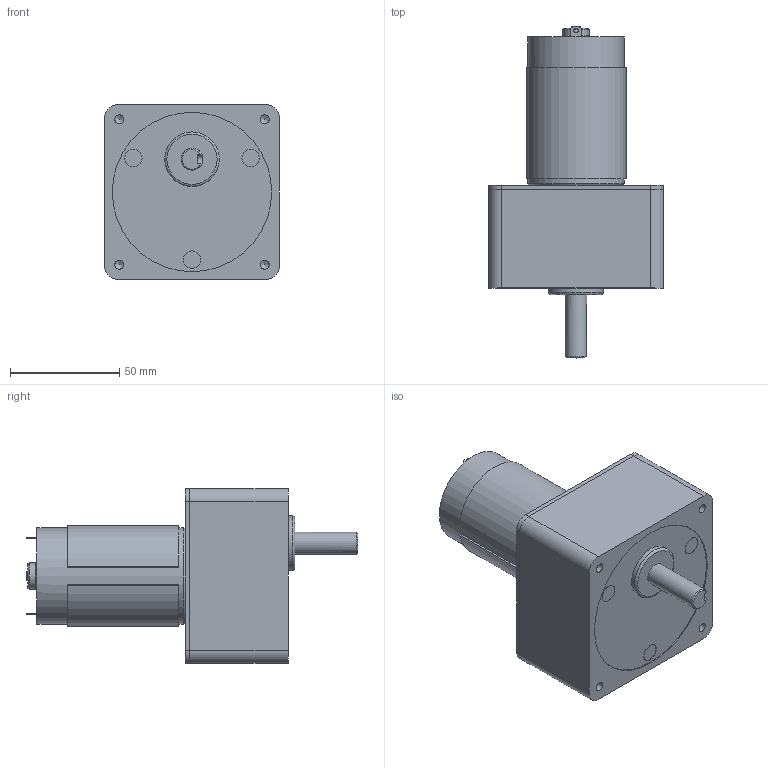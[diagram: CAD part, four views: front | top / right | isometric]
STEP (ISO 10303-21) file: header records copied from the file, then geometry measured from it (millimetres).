
FILE_DESCRIPTION(/* description */ (''),/* implementation_level */ '2;1');
FILE_NAME(/* name */ 'TP-4668-DM-3~4.stp',/* time_stamp */ '2024-05-31T18:10:21+09:00',/* author */ ('user'),/* organization */ (''),/* preprocessor_version */ 'ST-DEVELOPER v20',/* originating_system */ 'Autodesk Inventor 2024',/* authorisation */ '');
FILE_SCHEMA (('AUTOMOTIVE_DESIGN { 1 0 10303 214 3 1 1 }'));
Length unit declared in the file: millimetre
Products named in the file (4): TP-4668-DM-25~180; tp_4668; DM-3.4; BR0035-Y014
Assembly tree (3 placements, depth 2):
  TP-4668-DM-25~180
    tp_4668
    DM-3.4
    BR0035-Y014
Bounding box: 80 x 152 x 80 mm (x, y, z)
Volume: 394933.7 mm3; surface area: 58639.7 mm2
Topology: 4 solids, 4 shells, 121 faces, 267 edges, 175 vertices
Faces by surface type: plane 55, cylinder 51, cone 11, torus 4
Full cylindrical faces by diameter (mm): 2 x2, 2.459 x3, 4 x2, 4.134 x4, 5.5 x4, 8 x3, 10 x1, 12 x2, 15.1 x1, 25 x1, 42 x1, 44 x1, 73 x2
Entity records: 3511 total; most frequent: DIRECTION 632, CARTESIAN_POINT 585, ORIENTED_EDGE 520, EDGE_CURVE 260, AXIS2_PLACEMENT_3D 248, VERTEX_POINT 175, EDGE_LOOP 155, LINE 136
